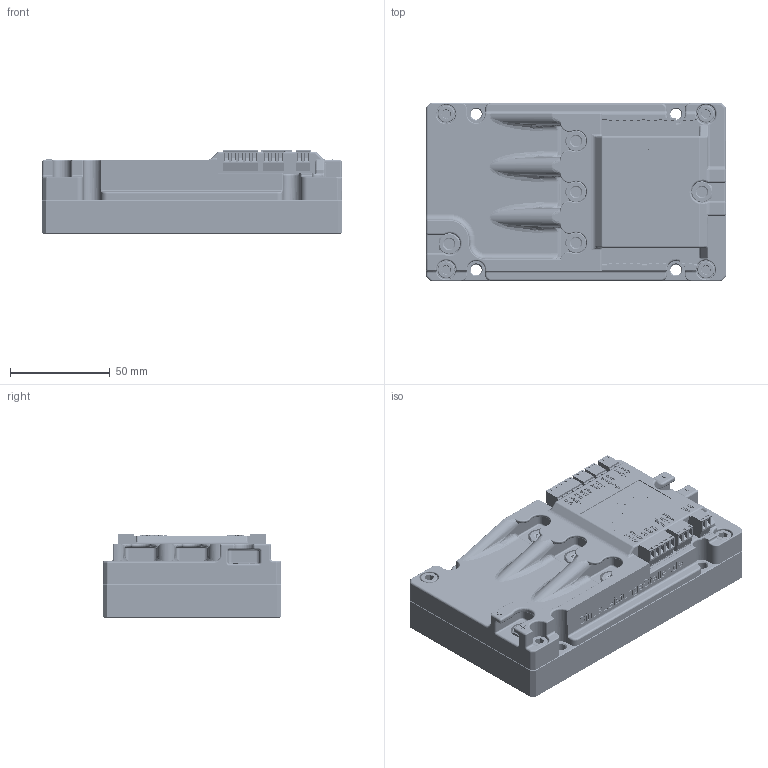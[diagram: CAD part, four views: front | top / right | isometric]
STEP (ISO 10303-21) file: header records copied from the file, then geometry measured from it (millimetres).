
FILE_DESCRIPTION(/* description */ ('Alibre Inc.'),/* implementation_level */ '2;1');
FILE_NAME(/* name */ 'export-BAB6AC62-74F4-425E-B668-8ED11AFB43AB',/* time_stamp */ '2022-04-07T20:13:46+02:00',/* author */ (''),/* organization */ (''),/* preprocessor_version */ 'ST-DEVELOPER v17',/* originating_system */ 'Alibre',/* authorisation */ '');
FILE_SCHEMA (('AUTOMOTIVE_DESIGN'));
Length unit declared in the file: millimetre
Products named in the file (35): 691325110002; 6913211000xx_PIN; Assem1; 691321100005; 691325110003; 691364100002_M; 6913611000xx_CAGE; 6913611000xx_VIS; 6913611000xx_PIN; 691364100002; 691361100005_M; 691361100005; 691364100003_M; 691364100003
Bounding box: 150 x 89 x 41.65 mm (x, y, z)
Volume: 298310.5 mm3; surface area: 226095.2 mm2
Topology: 235 solids, 235 shells, 14200 faces, 37742 edges, 24531 vertices
Faces by surface type: plane 9183, cylinder 2554, bspline 1443, torus 680, cone 280, sphere 60
Full cylindrical faces by diameter (mm): 0.472 x3, 1 x5, 1.5 x42, 1.8 x21, 1.9 x63, 2.1 x21, 2.8 x42, 3.9 x3, 4 x122, 4.2 x3, 5 x76, 5.5 x8, 6.9 x11, 7.22 x59, 8 x118, 8.5 x4, 9.5 x13, 12.5 x6, 13 x2
Entity records: 224116 total; most frequent: CARTESIAN_POINT 74231, ORIENTED_EDGE 33624, DIRECTION 22992, EDGE_CURVE 16812, VECTOR 11284, LINE 11284, VERTEX_POINT 10976, AXIS2_PLACEMENT_3D 7678
